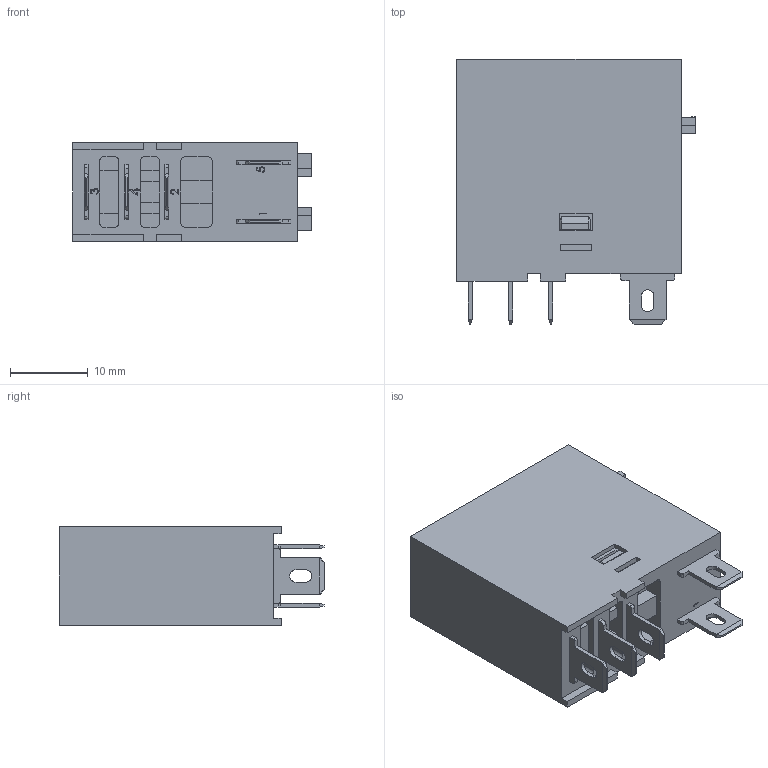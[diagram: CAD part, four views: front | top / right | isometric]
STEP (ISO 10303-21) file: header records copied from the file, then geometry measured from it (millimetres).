
FILE_DESCRIPTION (( 'STEP AP203' ), '1' );
FILE_NAME ('RFT-1C-L 俋倛.STEP', '2022-12-28T05:51:59', ( '' ), ( '' ), 'SwSTEP 2.0', 'SolidWorks 2018', '' );
FILE_SCHEMA (( 'CONFIG_CONTROL_DESIGN' ));
Length unit declared in the file: millimetre
Products named in the file (1): RFT-1C-L 俋倛
Bounding box: 30.6 x 34.1 x 12.6 mm (x, y, z)
Volume: 9828 mm3; surface area: 3857.2 mm2
Topology: 1 solids, 1 shells, 310 faces, 830 edges, 544 vertices
Faces by surface type: plane 249, cylinder 33, bspline 28
Entity records: 11113 total; most frequent: CARTESIAN_POINT 3393, ORIENTED_EDGE 1660, DIRECTION 1406, EDGE_CURVE 830, VECTOR 708, LINE 708, VERTEX_POINT 544, AXIS2_PLACEMENT_3D 349
